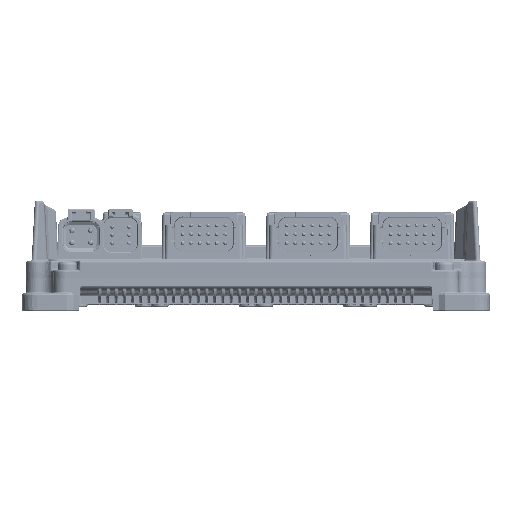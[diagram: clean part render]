
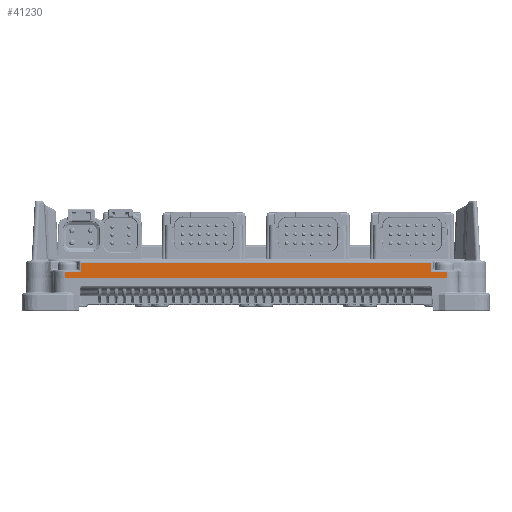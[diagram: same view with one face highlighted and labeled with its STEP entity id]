
A CAD part, top view. The second image highlights one B-rep face of the part: STEP entity #41230.
In plain terms, the highlighted planar face has unit normal (0, -0.026, 1).
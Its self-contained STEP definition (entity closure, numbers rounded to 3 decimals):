
#3645 = VERTEX_POINT ( 'NONE', #34598 ) ;
#5726 = VERTEX_POINT ( 'NONE', #226187 ) ;
#9471 = CARTESIAN_POINT ( 'NONE',  ( -104.468, 0.232, 61.035 ) ) ;
#11999 = LINE ( 'NONE', #145188, #263879 ) ;
#15292 = CARTESIAN_POINT ( 'NONE',  ( 104.395, -0.001, 61.029 ) ) ;
#17630 = DIRECTION ( 'NONE',  ( 0., -0.026, 1. ) ) ;
#21590 = VERTEX_POINT ( 'NONE', #362777 ) ;
#24490 = B_SPLINE_CURVE_WITH_KNOTS ( 'NONE', 3,
 ( #15292, #148446, #281393, #414198 ),
 .UNSPECIFIED., .F., .F.,
 ( 4, 4 ),
 ( 0., 1. ),
 .UNSPECIFIED. ) ;
#34598 = CARTESIAN_POINT ( 'NONE',  ( 95.92, 8.286, 61.246 ) ) ;
#35873 = EDGE_CURVE ( 'NONE', #288603, #420499, #97321, .T. ) ;
#38439 = CARTESIAN_POINT ( 'NONE',  ( -95.92, 8.286, 61.246 ) ) ;
#41230 = ADVANCED_FACE ( 'NONE', ( #180787 ), #350634, .T. ) ;
#41263 = ORIENTED_EDGE ( 'NONE', *, *, #35873, .T. ) ;
#42212 = CARTESIAN_POINT ( 'NONE',  ( -104.469, 2.237, 61.088 ) ) ;
#45156 = ORIENTED_EDGE ( 'NONE', *, *, #428102, .T. ) ;
#48478 = EDGE_LOOP ( 'NONE', ( #288401, #228352, #106543, #254939, #45156, #368949, #257518, #157651, #41263, #319167 ) ) ;
#49813 = CARTESIAN_POINT ( 'NONE',  ( 104.469, 1.307, 61.063 ) ) ;
#52204 = DIRECTION ( 'NONE',  ( -0.017, -1., -0.026 ) ) ;
#52719 = VECTOR ( 'NONE', #52204, 1000. ) ;
#60948 = CARTESIAN_POINT ( 'NONE',  ( -104.469, 3.223, 61.113 ) ) ;
#74967 = CARTESIAN_POINT ( 'NONE',  ( -104.469, 3.209, 61.113 ) ) ;
#78832 = LINE ( 'NONE', #212034, #312199 ) ;
#82605 = CARTESIAN_POINT ( 'NONE',  ( 104.468, 0.116, 61.032 ) ) ;
#84354 = CARTESIAN_POINT ( 'NONE',  ( -95.902, 8.286, 61.246 ) ) ;
#91484 = VERTEX_POINT ( 'NONE', #290887 ) ;
#96455 = EDGE_CURVE ( 'NONE', #3645, #146473, #383147, .T. ) ;
#97321 = B_SPLINE_CURVE_WITH_KNOTS ( 'NONE', 3,
 ( #381389, #82605, #215750, #348657, #49813, #183025, #315847 ),
 .UNSPECIFIED., .F., .F.,
 ( 4, 3, 4 ),
 ( 0., 0., 0.003 ),
 .UNSPECIFIED. ) ;
#97695 = CARTESIAN_POINT ( 'NONE',  ( 104.469, 3.223, 61.113 ) ) ;
#101538 = CARTESIAN_POINT ( 'NONE',  ( -104.422, -0.001, 61.029 ) ) ;
#104301 = LINE ( 'NONE', #237398, #201982 ) ;
#106543 = ORIENTED_EDGE ( 'NONE', *, *, #183328, .T. ) ;
#110954 = CARTESIAN_POINT ( 'NONE',  ( 104.419, -0.001, 61.029 ) ) ;
#111340 = EDGE_CURVE ( 'NONE', #120926, #3645, #104301, .T. ) ;
#120926 = VERTEX_POINT ( 'NONE', #231977 ) ;
#129531 = EDGE_CURVE ( 'NONE', #21590, #5726, #24490, .T. ) ;
#131437 = B_SPLINE_CURVE_WITH_KNOTS ( 'NONE', 3,
 ( #273418, #74967, #208133, #341025, #42212, #175432, #308196, #9471, #142603, #275601 ),
 .UNSPECIFIED., .F., .F.,
 ( 4, 3, 3, 4 ),
 ( 0.006, 0.006, 0.009, 0.009 ),
 .UNSPECIFIED. ) ;
#142603 = CARTESIAN_POINT ( 'NONE',  ( -104.468, 0.116, 61.032 ) ) ;
#145188 = CARTESIAN_POINT ( 'NONE',  ( 104.472, 3.223, 61.113 ) ) ;
#146473 = VERTEX_POINT ( 'NONE', #38439 ) ;
#147675 = B_SPLINE_CURVE_WITH_KNOTS ( 'NONE', 3,
 ( #400224, #101538, #234634, #367669 ),
 .UNSPECIFIED., .F., .F.,
 ( 4, 4 ),
 ( 0., 0.008 ),
 .UNSPECIFIED. ) ;
#148446 = CARTESIAN_POINT ( 'NONE',  ( 34.798, -0.001, 61.029 ) ) ;
#150773 = DIRECTION ( 'NONE',  ( 0., -1., -0.026 ) ) ;
#157651 = ORIENTED_EDGE ( 'NONE', *, *, #174944, .T. ) ;
#171641 = AXIS2_PLACEMENT_3D ( 'NONE', #316370, #17630, #150773 ) ;
#174143 = VERTEX_POINT ( 'NONE', #60948 ) ;
#174944 = EDGE_CURVE ( 'NONE', #21590, #288603, #197726, .T. ) ;
#175432 = CARTESIAN_POINT ( 'NONE',  ( -104.469, 1.293, 61.063 ) ) ;
#177831 = VECTOR ( 'NONE', #217529, 1000. ) ;
#180787 = FACE_OUTER_BOUND ( 'NONE', #48478, .T. ) ;
#183025 = CARTESIAN_POINT ( 'NONE',  ( 104.469, 2.265, 61.088 ) ) ;
#183328 = EDGE_CURVE ( 'NONE', #146473, #307571, #218157, .T. ) ;
#197726 = B_SPLINE_CURVE_WITH_KNOTS ( 'NONE', 3,
 ( #409547, #110954, #243968, #376915 ),
 .UNSPECIFIED., .F., .F.,
 ( 4, 4 ),
 ( 1., 1. ),
 .UNSPECIFIED. ) ;
#201982 = VECTOR ( 'NONE', #370339, 1000. ) ;
#208133 = CARTESIAN_POINT ( 'NONE',  ( -104.469, 3.195, 61.113 ) ) ;
#212034 = CARTESIAN_POINT ( 'NONE',  ( 96.991, 3.223, 61.113 ) ) ;
#215750 = CARTESIAN_POINT ( 'NONE',  ( 104.468, 0.232, 61.035 ) ) ;
#217529 = DIRECTION ( 'NONE',  ( -1., 0., 0. ) ) ;
#218157 = LINE ( 'NONE', #351049, #52719 ) ;
#226187 = CARTESIAN_POINT ( 'NONE',  ( -104.39, -0.001, 61.029 ) ) ;
#228352 = ORIENTED_EDGE ( 'NONE', *, *, #96455, .T. ) ;
#231977 = CARTESIAN_POINT ( 'NONE',  ( 96.008, 3.223, 61.113 ) ) ;
#234634 = CARTESIAN_POINT ( 'NONE',  ( -104.449, -0.001, 61.029 ) ) ;
#237398 = CARTESIAN_POINT ( 'NONE',  ( 95.904, 9.162, 61.269 ) ) ;
#243968 = CARTESIAN_POINT ( 'NONE',  ( 104.444, -0.001, 61.029 ) ) ;
#254939 = ORIENTED_EDGE ( 'NONE', *, *, #356473, .T. ) ;
#257518 = ORIENTED_EDGE ( 'NONE', *, *, #129531, .F. ) ;
#263879 = VECTOR ( 'NONE', #278067, 1000. ) ;
#273418 = CARTESIAN_POINT ( 'NONE',  ( -104.469, 3.223, 61.113 ) ) ;
#275601 = CARTESIAN_POINT ( 'NONE',  ( -104.477, -0.001, 61.029 ) ) ;
#278067 = DIRECTION ( 'NONE',  ( -1., 0., 0. ) ) ;
#281141 = EDGE_CURVE ( 'NONE', #420499, #120926, #78832, .T. ) ;
#281393 = CARTESIAN_POINT ( 'NONE',  ( -34.798, -0.001, 61.029 ) ) ;
#288401 = ORIENTED_EDGE ( 'NONE', *, *, #111340, .T. ) ;
#288603 = VERTEX_POINT ( 'NONE', #294247 ) ;
#290887 = CARTESIAN_POINT ( 'NONE',  ( -104.477, -0.001, 61.029 ) ) ;
#294247 = CARTESIAN_POINT ( 'NONE',  ( 104.477, -0.001, 61.029 ) ) ;
#307571 = VERTEX_POINT ( 'NONE', #326787 ) ;
#308196 = CARTESIAN_POINT ( 'NONE',  ( -104.468, 0.349, 61.038 ) ) ;
#312199 = VECTOR ( 'NONE', #344944, 1000. ) ;
#315847 = CARTESIAN_POINT ( 'NONE',  ( 104.469, 3.223, 61.113 ) ) ;
#316370 = CARTESIAN_POINT ( 'NONE',  ( 104.472, 9.312, 61.273 ) ) ;
#319167 = ORIENTED_EDGE ( 'NONE', *, *, #281141, .T. ) ;
#326787 = CARTESIAN_POINT ( 'NONE',  ( -96.008, 3.223, 61.113 ) ) ;
#341025 = CARTESIAN_POINT ( 'NONE',  ( -104.469, 3.181, 61.112 ) ) ;
#344944 = DIRECTION ( 'NONE',  ( -1., 0., 0. ) ) ;
#348657 = CARTESIAN_POINT ( 'NONE',  ( 104.468, 0.349, 61.038 ) ) ;
#350634 = PLANE ( 'NONE',  #171641 ) ;
#351049 = CARTESIAN_POINT ( 'NONE',  ( -95.841, 12.806, 61.364 ) ) ;
#356473 = EDGE_CURVE ( 'NONE', #307571, #174143, #11999, .T. ) ;
#362777 = CARTESIAN_POINT ( 'NONE',  ( 104.395, -0.001, 61.029 ) ) ;
#367669 = CARTESIAN_POINT ( 'NONE',  ( -104.477, -0.001, 61.029 ) ) ;
#368949 = ORIENTED_EDGE ( 'NONE', *, *, #398734, .F. ) ;
#370339 = DIRECTION ( 'NONE',  ( -0.017, 1., 0.026 ) ) ;
#376915 = CARTESIAN_POINT ( 'NONE',  ( 104.477, -0.001, 61.029 ) ) ;
#381389 = CARTESIAN_POINT ( 'NONE',  ( 104.477, -0.001, 61.029 ) ) ;
#383147 = LINE ( 'NONE', #84354, #177831 ) ;
#398734 = EDGE_CURVE ( 'NONE', #5726, #91484, #147675, .T. ) ;
#400224 = CARTESIAN_POINT ( 'NONE',  ( -104.39, -0.001, 61.029 ) ) ;
#409547 = CARTESIAN_POINT ( 'NONE',  ( 104.395, -0.001, 61.029 ) ) ;
#414198 = CARTESIAN_POINT ( 'NONE',  ( -104.39, -0.001, 61.029 ) ) ;
#420499 = VERTEX_POINT ( 'NONE', #97695 ) ;
#428102 = EDGE_CURVE ( 'NONE', #174143, #91484, #131437, .T. ) ;
